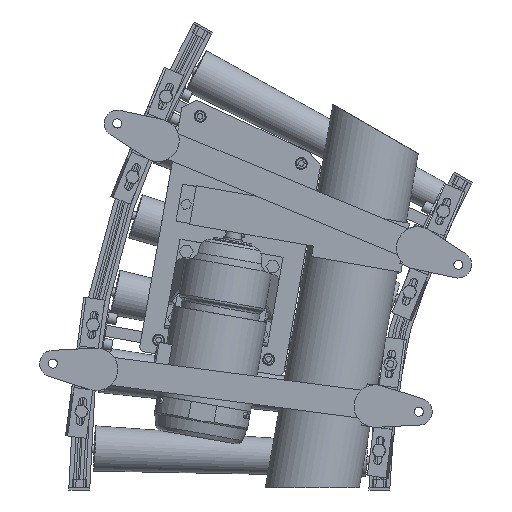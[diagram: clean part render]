
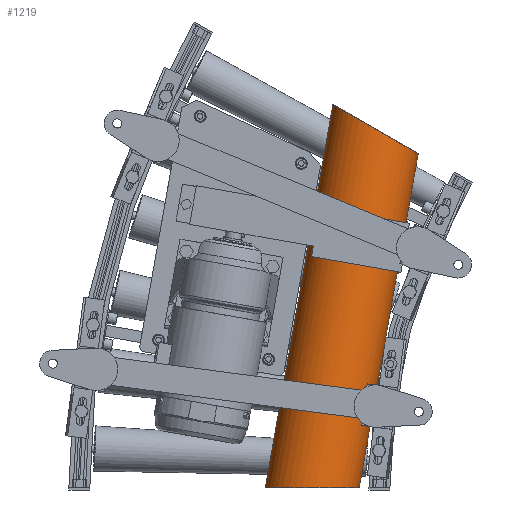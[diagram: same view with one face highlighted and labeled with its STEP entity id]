
A CAD part, front view. The second image highlights one B-rep face of the part: STEP entity #1219.
In plain terms, the highlighted cylindrical face has radius 66.3 mm (diameter 132.6 mm), a partial arc.
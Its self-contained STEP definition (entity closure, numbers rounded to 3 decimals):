
#1219=ADVANCED_FACE('',(#4896),#4895,.T.);
#4895=CYLINDRICAL_SURFACE('',#26492,66.3);
#4896=FACE_OUTER_BOUND('',#26493,.T.);
#26489=CARTESIAN_POINT('',(321.788,-151.7,1151.24));
#26490=DIRECTION('',(0.174,0.,0.985));
#26491=DIRECTION('',(0.985,0.,-0.174));
#26492=AXIS2_PLACEMENT_3D('',#26489,#26490,#26491);
#26493=EDGE_LOOP('',(#38173,#38174,#38175,#38176));
#38173=ORIENTED_EDGE('',*,*,#48684,.F.);
#38174=ORIENTED_EDGE('',*,*,#48683,.T.);
#38175=ORIENTED_EDGE('',*,*,#48685,.F.);
#38176=ORIENTED_EDGE('',*,*,#48686,.F.);
#48683=EDGE_CURVE('',#56170,#56184,#56191,.T.);
#48684=EDGE_CURVE('',#56170,#56197,#56198,.T.);
#48685=EDGE_CURVE('',#56204,#56184,#56205,.T.);
#48686=EDGE_CURVE('',#56197,#56204,#56211,.T.);
#56170=VERTEX_POINT('',#91307);
#56184=VERTEX_POINT('',#91315);
#56191=LINE('',#91319,#91320);
#56197=VERTEX_POINT('',#91322);
#56198=(BOUNDED_CURVE() B_SPLINE_CURVE(2,(#91323,#91324,#91325,#91326,#91327),.UNSPECIFIED.,.F.,.F.) B_SPLINE_CURVE_WITH_KNOTS((3,2,3),(3.142,4.712,6.283),.UNSPECIFIED.) CURVE() GEOMETRIC_REPRESENTATION_ITEM() RATIONAL_B_SPLINE_CURVE((1.,0.707,1.,0.707,1.)) REPRESENTATION_ITEM('') );
#56204=VERTEX_POINT('',#91328);
#56205=(BOUNDED_CURVE() B_SPLINE_CURVE(2,(#91329,#91330,#91331,#91332,#91333),.UNSPECIFIED.,.F.,.F.) B_SPLINE_CURVE_WITH_KNOTS((3,2,3),(3.142,4.712,6.283),.UNSPECIFIED.) CURVE() GEOMETRIC_REPRESENTATION_ITEM() RATIONAL_B_SPLINE_CURVE((1.,0.707,1.,0.707,1.)) REPRESENTATION_ITEM('') );
#56211=LINE('',#91334,#91335);
#91307=CARTESIAN_POINT('',(148.351,-151.7,549.435));
#91315=CARTESIAN_POINT('',(51.47,-151.7,0.));
#91319=CARTESIAN_POINT('',(148.351,-151.7,549.435));
#91320=VECTOR('',#91321,557.911);
#91321=DIRECTION('',(-0.174,0.,-0.985));
#91322=CARTESIAN_POINT('',(270.555,-151.7,478.88));
#91323=CARTESIAN_POINT('',(148.351,-151.7,549.435));
#91324=CARTESIAN_POINT('',(148.351,-218.,549.435));
#91325=CARTESIAN_POINT('',(209.453,-218.,514.158));
#91326=CARTESIAN_POINT('',(270.555,-218.,478.88));
#91327=CARTESIAN_POINT('',(270.555,-151.7,478.88));
#91328=CARTESIAN_POINT('',(186.116,-151.7,0.));
#91329=CARTESIAN_POINT('',(186.116,-151.7,0.));
#91330=CARTESIAN_POINT('',(186.116,-218.,0.));
#91331=CARTESIAN_POINT('',(118.793,-218.,0.));
#91332=CARTESIAN_POINT('',(51.47,-218.,0.));
#91333=CARTESIAN_POINT('',(51.47,-151.7,0.));
#91334=CARTESIAN_POINT('',(270.555,-151.7,478.88));
#91335=VECTOR('',#91336,486.268);
#91336=DIRECTION('',(-0.174,0.,-0.985));
